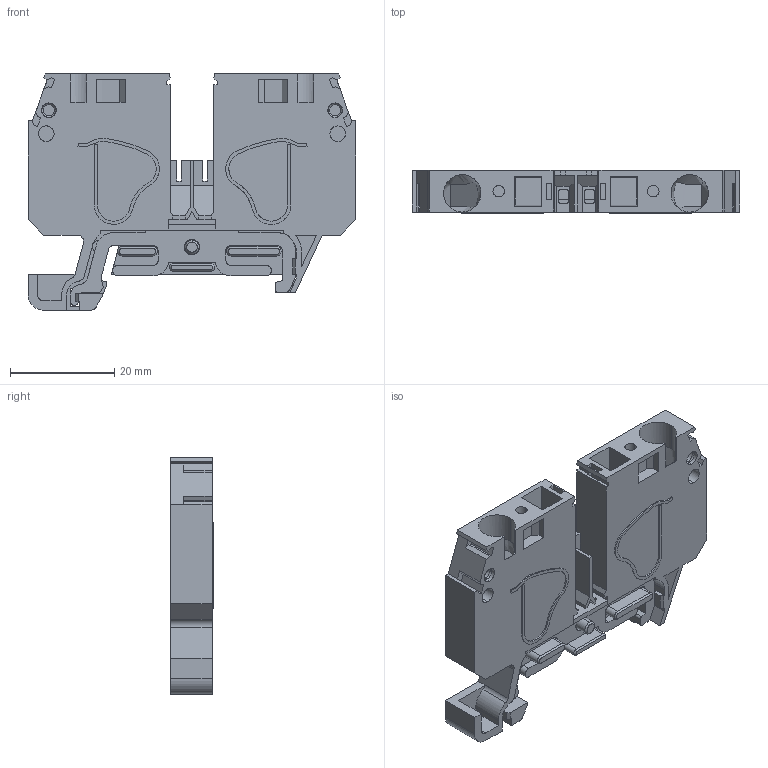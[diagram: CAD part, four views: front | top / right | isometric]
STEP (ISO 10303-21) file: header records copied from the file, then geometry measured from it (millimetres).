
FILE_DESCRIPTION (( 'STEP AP214' ), '1' );
FILE_NAME ('42450_EURO QE_6_35.STEP', '2021-03-26T10:14:18', ( '' ), ( '' ), 'SwSTEP 2.0', 'SolidWorks 2020', '' );
FILE_SCHEMA (( 'AUTOMOTIVE_DESIGN' ));
Length unit declared in the file: millimetre
Products named in the file (1): 42450_EURO QE_6_35
Bounding box: 63 x 8.25 x 45.4 mm (x, y, z)
Volume: 13755 mm3; surface area: 9243 mm2
Topology: 1 solids, 1 shells, 466 faces, 1319 edges, 867 vertices
Faces by surface type: plane 318, cylinder 124, bspline 12, cone 12
Entity records: 17541 total; most frequent: CARTESIAN_POINT 5782, ORIENTED_EDGE 2638, DIRECTION 2114, EDGE_CURVE 1319, VECTOR 982, LINE 982, VERTEX_POINT 867, AXIS2_PLACEMENT_3D 566
